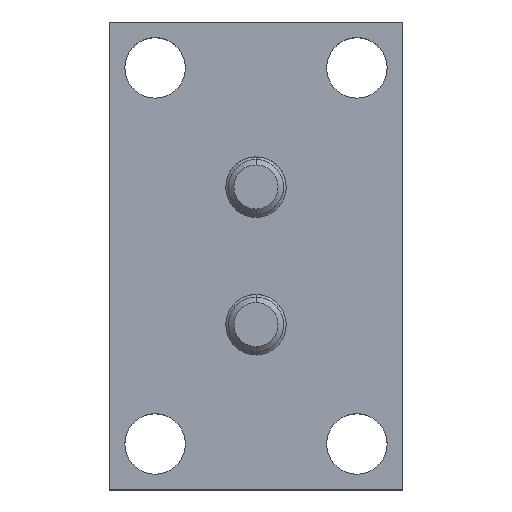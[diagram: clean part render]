
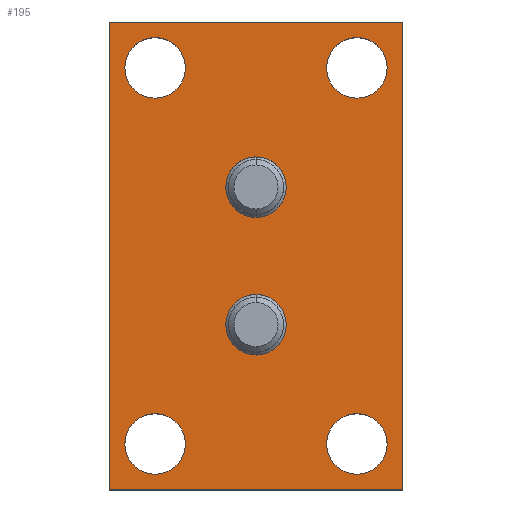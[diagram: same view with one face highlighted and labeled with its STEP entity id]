
A CAD part, top view. The second image highlights one B-rep face of the part: STEP entity #195.
In plain terms, the highlighted planar face has unit normal (0, 0, 1).
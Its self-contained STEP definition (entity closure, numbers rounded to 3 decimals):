
#129=CIRCLE('',#974,3.3);
#130=CIRCLE('',#975,3.3);
#131=CIRCLE('',#976,3.3);
#132=CIRCLE('',#977,3.3);
#133=CIRCLE('',#978,3.3);
#134=CIRCLE('',#979,3.3);
#135=CIRCLE('',#980,3.3);
#136=CIRCLE('',#981,3.3);
#137=CIRCLE('',#982,3.3);
#138=CIRCLE('',#983,3.3);
#139=CIRCLE('',#984,3.3);
#140=CIRCLE('',#985,3.3);
#173=FACE_BOUND('',#319,.T.);
#174=FACE_BOUND('',#320,.T.);
#175=FACE_BOUND('',#321,.T.);
#176=FACE_BOUND('',#322,.T.);
#177=FACE_BOUND('',#323,.T.);
#178=FACE_BOUND('',#324,.T.);
#179=FACE_BOUND('',#325,.T.);
#195=ADVANCED_FACE('',(#173,#174,#175,#176,#177,#178,#179),#247,.T.);
#247=PLANE('',#986);
#319=EDGE_LOOP('',(#397,#398,#399,#400));
#320=EDGE_LOOP('',(#401,#402));
#321=EDGE_LOOP('',(#403,#404));
#322=EDGE_LOOP('',(#405,#406));
#323=EDGE_LOOP('',(#407,#408));
#324=EDGE_LOOP('',(#409,#410));
#325=EDGE_LOOP('',(#411,#412));
#397=ORIENTED_EDGE('',*,*,#698,.T.);
#398=ORIENTED_EDGE('',*,*,#702,.T.);
#399=ORIENTED_EDGE('',*,*,#705,.T.);
#400=ORIENTED_EDGE('',*,*,#708,.T.);
#401=ORIENTED_EDGE('',*,*,#709,.T.);
#402=ORIENTED_EDGE('',*,*,#710,.T.);
#403=ORIENTED_EDGE('',*,*,#711,.T.);
#404=ORIENTED_EDGE('',*,*,#712,.T.);
#405=ORIENTED_EDGE('',*,*,#713,.T.);
#406=ORIENTED_EDGE('',*,*,#714,.T.);
#407=ORIENTED_EDGE('',*,*,#715,.T.);
#408=ORIENTED_EDGE('',*,*,#716,.T.);
#409=ORIENTED_EDGE('',*,*,#717,.T.);
#410=ORIENTED_EDGE('',*,*,#718,.T.);
#411=ORIENTED_EDGE('',*,*,#719,.T.);
#412=ORIENTED_EDGE('',*,*,#720,.T.);
#622=VERTEX_POINT('',#1339);
#623=VERTEX_POINT('',#1341);
#626=VERTEX_POINT('',#1348);
#628=VERTEX_POINT('',#1354);
#629=VERTEX_POINT('',#1362);
#630=VERTEX_POINT('',#1363);
#631=VERTEX_POINT('',#1366);
#632=VERTEX_POINT('',#1367);
#633=VERTEX_POINT('',#1370);
#634=VERTEX_POINT('',#1371);
#635=VERTEX_POINT('',#1374);
#636=VERTEX_POINT('',#1375);
#637=VERTEX_POINT('',#1378);
#638=VERTEX_POINT('',#1379);
#639=VERTEX_POINT('',#1382);
#640=VERTEX_POINT('',#1383);
#698=EDGE_CURVE('',#623,#622,#818,.T.);
#702=EDGE_CURVE('',#622,#626,#822,.T.);
#705=EDGE_CURVE('',#626,#628,#825,.T.);
#708=EDGE_CURVE('',#628,#623,#828,.T.);
#709=EDGE_CURVE('',#629,#630,#129,.T.);
#710=EDGE_CURVE('',#630,#629,#130,.T.);
#711=EDGE_CURVE('',#631,#632,#131,.T.);
#712=EDGE_CURVE('',#632,#631,#132,.T.);
#713=EDGE_CURVE('',#633,#634,#133,.T.);
#714=EDGE_CURVE('',#634,#633,#134,.T.);
#715=EDGE_CURVE('',#635,#636,#135,.T.);
#716=EDGE_CURVE('',#636,#635,#136,.T.);
#717=EDGE_CURVE('',#637,#638,#137,.T.);
#718=EDGE_CURVE('',#638,#637,#138,.T.);
#719=EDGE_CURVE('',#639,#640,#139,.T.);
#720=EDGE_CURVE('',#640,#639,#140,.T.);
#818=LINE('',#1340,#894);
#822=LINE('',#1349,#898);
#825=LINE('',#1355,#901);
#828=LINE('',#1359,#904);
#894=VECTOR('',#1069,1.);
#898=VECTOR('',#1075,1.);
#901=VECTOR('',#1080,1.);
#904=VECTOR('',#1085,1.);
#974=AXIS2_PLACEMENT_3D('',#1361,#1088,#1089);
#975=AXIS2_PLACEMENT_3D('',#1364,#1090,#1091);
#976=AXIS2_PLACEMENT_3D('',#1365,#1092,#1093);
#977=AXIS2_PLACEMENT_3D('',#1368,#1094,#1095);
#978=AXIS2_PLACEMENT_3D('',#1369,#1096,#1097);
#979=AXIS2_PLACEMENT_3D('',#1372,#1098,#1099);
#980=AXIS2_PLACEMENT_3D('',#1373,#1100,#1101);
#981=AXIS2_PLACEMENT_3D('',#1376,#1102,#1103);
#982=AXIS2_PLACEMENT_3D('',#1377,#1104,#1105);
#983=AXIS2_PLACEMENT_3D('',#1380,#1106,#1107);
#984=AXIS2_PLACEMENT_3D('',#1381,#1108,#1109);
#985=AXIS2_PLACEMENT_3D('',#1384,#1110,#1111);
#986=AXIS2_PLACEMENT_3D('',#1385,#1112,#1113);
#1069=DIRECTION('',(-1.,0.,0.));
#1075=DIRECTION('',(0.,-1.,0.));
#1080=DIRECTION('',(1.,0.,0.));
#1085=DIRECTION('',(0.,1.,0.));
#1088=DIRECTION('',(0.,0.,-1.));
#1089=DIRECTION('',(-1.,0.,0.));
#1090=DIRECTION('',(0.,0.,-1.));
#1091=DIRECTION('',(1.,0.,0.));
#1092=DIRECTION('',(0.,0.,-1.));
#1093=DIRECTION('',(-1.,0.,0.));
#1094=DIRECTION('',(0.,0.,-1.));
#1095=DIRECTION('',(1.,0.,0.));
#1096=DIRECTION('',(0.,0.,-1.));
#1097=DIRECTION('',(-1.,0.,0.));
#1098=DIRECTION('',(0.,0.,-1.));
#1099=DIRECTION('',(1.,0.,0.));
#1100=DIRECTION('',(0.,0.,-1.));
#1101=DIRECTION('',(-1.,0.,0.));
#1102=DIRECTION('',(0.,0.,-1.));
#1103=DIRECTION('',(1.,0.,0.));
#1104=DIRECTION('',(0.,0.,-1.));
#1105=DIRECTION('',(-1.,0.,0.));
#1106=DIRECTION('',(0.,0.,-1.));
#1107=DIRECTION('',(1.,0.,0.));
#1108=DIRECTION('',(0.,0.,-1.));
#1109=DIRECTION('',(-1.,0.,0.));
#1110=DIRECTION('',(0.,0.,-1.));
#1111=DIRECTION('',(1.,0.,0.));
#1112=DIRECTION('',(0.,0.,1.));
#1113=DIRECTION('',(-1.,0.,0.));
#1339=CARTESIAN_POINT('',(-16.,25.5,9.));
#1340=CARTESIAN_POINT('',(-16.,25.5,9.));
#1341=CARTESIAN_POINT('',(16.,25.5,9.));
#1348=CARTESIAN_POINT('',(-16.,-25.5,9.));
#1349=CARTESIAN_POINT('',(-16.,25.5,9.));
#1354=CARTESIAN_POINT('',(16.,-25.5,9.));
#1355=CARTESIAN_POINT('',(-16.,-25.5,9.));
#1359=CARTESIAN_POINT('',(16.,25.5,9.));
#1361=CARTESIAN_POINT('',(11.,20.5,9.));
#1362=CARTESIAN_POINT('',(11.,23.8,9.));
#1363=CARTESIAN_POINT('',(11.,17.2,9.));
#1364=CARTESIAN_POINT('',(11.,20.5,9.));
#1365=CARTESIAN_POINT('',(-11.,20.5,9.));
#1366=CARTESIAN_POINT('',(-11.,23.8,9.));
#1367=CARTESIAN_POINT('',(-11.,17.2,9.));
#1368=CARTESIAN_POINT('',(-11.,20.5,9.));
#1369=CARTESIAN_POINT('',(11.,-20.5,9.));
#1370=CARTESIAN_POINT('',(11.,-17.2,9.));
#1371=CARTESIAN_POINT('',(11.,-23.8,9.));
#1372=CARTESIAN_POINT('',(11.,-20.5,9.));
#1373=CARTESIAN_POINT('',(-11.,-20.5,9.));
#1374=CARTESIAN_POINT('',(-11.,-17.2,9.));
#1375=CARTESIAN_POINT('',(-11.,-23.8,9.));
#1376=CARTESIAN_POINT('',(-11.,-20.5,9.));
#1377=CARTESIAN_POINT('',(0.,7.5,9.));
#1378=CARTESIAN_POINT('',(0.,10.8,9.));
#1379=CARTESIAN_POINT('',(0.,4.2,9.));
#1380=CARTESIAN_POINT('',(0.,7.5,9.));
#1381=CARTESIAN_POINT('',(0.,-7.5,9.));
#1382=CARTESIAN_POINT('',(0.,-4.2,9.));
#1383=CARTESIAN_POINT('',(0.,-10.8,9.));
#1384=CARTESIAN_POINT('',(0.,-7.5,9.));
#1385=CARTESIAN_POINT('',(16.,25.5,9.));
